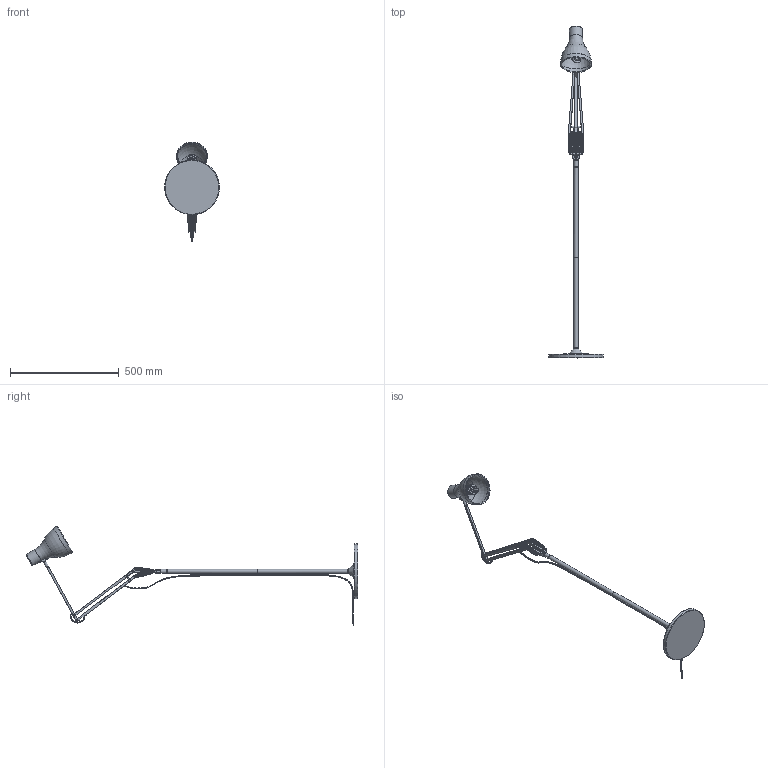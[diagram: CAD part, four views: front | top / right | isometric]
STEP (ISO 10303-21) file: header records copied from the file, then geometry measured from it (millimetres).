
FILE_DESCRIPTION (( 'STEP AP214' ), '1' );
FILE_NAME ('Type75_Floor_Lamp_STEP_01.STEP', '2014-12-18T14:38:41', ( '' ), ( '' ), 'SwSTEP 2.0', 'SolidWorks 2014', '' );
FILE_SCHEMA (( 'AUTOMOTIVE_DESIGN' ));
Length unit declared in the file: millimetre
Products named in the file (1): Type75_Floor_Lamp_STEP_01
Bounding box: 251.79 x 1527.09 x 459.4 mm (x, y, z)
Volume: 1559470.3 mm3; surface area: 424486.3 mm2
Topology: 1 solids, 1 shells, 598 faces, 1555 edges, 1032 vertices
Faces by surface type: plane 310, cylinder 188, bspline 55, torus 39, cone 4, sphere 2
Full cylindrical faces by diameter (mm): 0.53 x1, 0.653 x1, 3 x5, 3.1 x3, 4 x6, 5 x7, 5.5 x12, 5.8 x3, 7 x6, 7.5 x12, 8 x37, 9 x2, 9.8 x2, 10 x2, 12.5 x1, 13.335 x2, 17.5 x1, 18.7 x2, 18.8 x1, 19 x1, 37.5 x1, 38.1 x1, 57.97 x1, 59.97 x1, 137.5 x1, 252 x1
Entity records: 47159 total; most frequent: CARTESIAN_POINT 33286, ORIENTED_EDGE 2544, DIRECTION 2532, EDGE_CURVE 1272, EDGE_LOOP 952, VERTEX_POINT 928, AXIS2_PLACEMENT_3D 927, FACE_OUTER_BOUND 773
